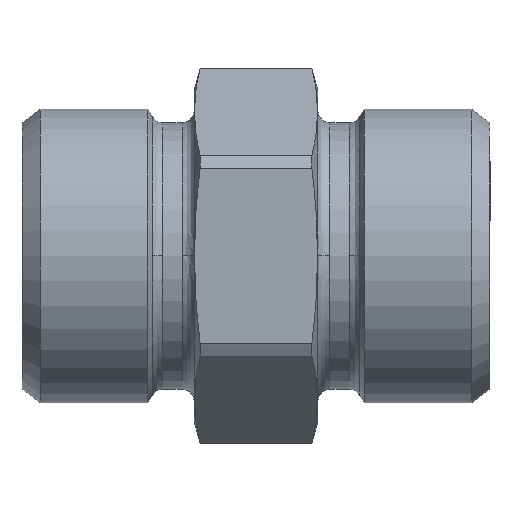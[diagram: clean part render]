
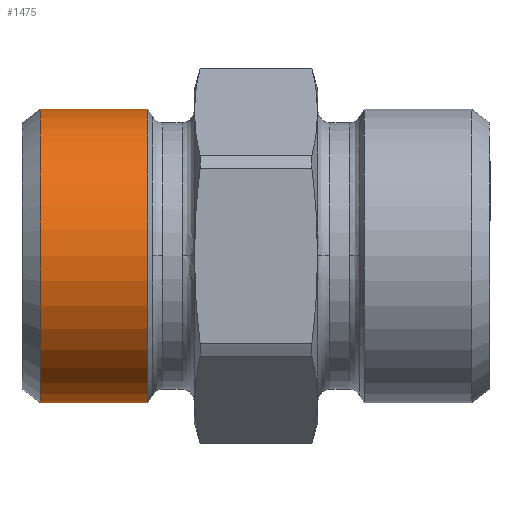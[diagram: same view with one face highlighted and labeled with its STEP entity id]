
A CAD part, top view. The second image highlights one B-rep face of the part: STEP entity #1475.
In plain terms, the highlighted cylindrical face has radius 11.925 mm (diameter 23.85 mm), a partial arc.
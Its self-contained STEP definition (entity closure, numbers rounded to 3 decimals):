
#859=CARTESIAN_POINT('',(0.,-11.925,17.507));
#860=VERTEX_POINT('',#859);
#861=CARTESIAN_POINT('',(0.,-11.925,8.8));
#862=VERTEX_POINT('',#861);
#863=CARTESIAN_POINT('',(0.,-11.925,17.507));
#864=DIRECTION('',(0.0,0.0,-1.0));
#865=VECTOR('',#864,8.708);
#866=LINE('',#863,#865);
#867=EDGE_CURVE('',#860,#862,#866,.T.);
#869=CARTESIAN_POINT('',(0.,11.925,17.507));
#870=VERTEX_POINT('',#869);
#878=CARTESIAN_POINT('',(0.,11.925,8.8));
#879=VERTEX_POINT('',#878);
#880=CARTESIAN_POINT('',(0.,11.925,8.8));
#881=DIRECTION('',(0.0,0.0,1.0));
#882=VECTOR('',#881,8.708);
#883=LINE('',#880,#882);
#884=EDGE_CURVE('',#879,#870,#883,.T.);
#1351=CARTESIAN_POINT('',(0.,0.,8.8));
#1352=DIRECTION('',(0.0,0.0,-1.0));
#1353=DIRECTION('',(0.0,-1.0,0.0));
#1354=AXIS2_PLACEMENT_3D('',#1351,#1352,#1353);
#1355=CIRCLE('',#1354,11.925);
#1356=EDGE_CURVE('',#879,#862,#1355,.T.);
#1452=CARTESIAN_POINT('',(0.,0.,17.507));
#1453=DIRECTION('',(0.0,0.0,-1.0));
#1454=DIRECTION('',(0.0,-1.0,0.0));
#1455=AXIS2_PLACEMENT_3D('',#1452,#1453,#1454);
#1456=CIRCLE('',#1455,11.925);
#1457=EDGE_CURVE('',#870,#860,#1456,.T.);
#1464=CARTESIAN_POINT('',(0.,0.,13.153));
#1465=DIRECTION('',(0.,0.,-1.0));
#1466=DIRECTION('',(0.0,-1.0,0.0));
#1467=AXIS2_PLACEMENT_3D('',#1464,#1465,#1466);
#1468=CYLINDRICAL_SURFACE('',#1467,11.925);
#1469=ORIENTED_EDGE('',*,*,#867,.T.);
#1470=ORIENTED_EDGE('',*,*,#1356,.F.);
#1471=ORIENTED_EDGE('',*,*,#884,.T.);
#1472=ORIENTED_EDGE('',*,*,#1457,.T.);
#1473=EDGE_LOOP('',(#1469,#1470,#1471,#1472));
#1474=FACE_OUTER_BOUND('',#1473,.T.);
#1475=ADVANCED_FACE('',(#1474),#1468,.T.);
